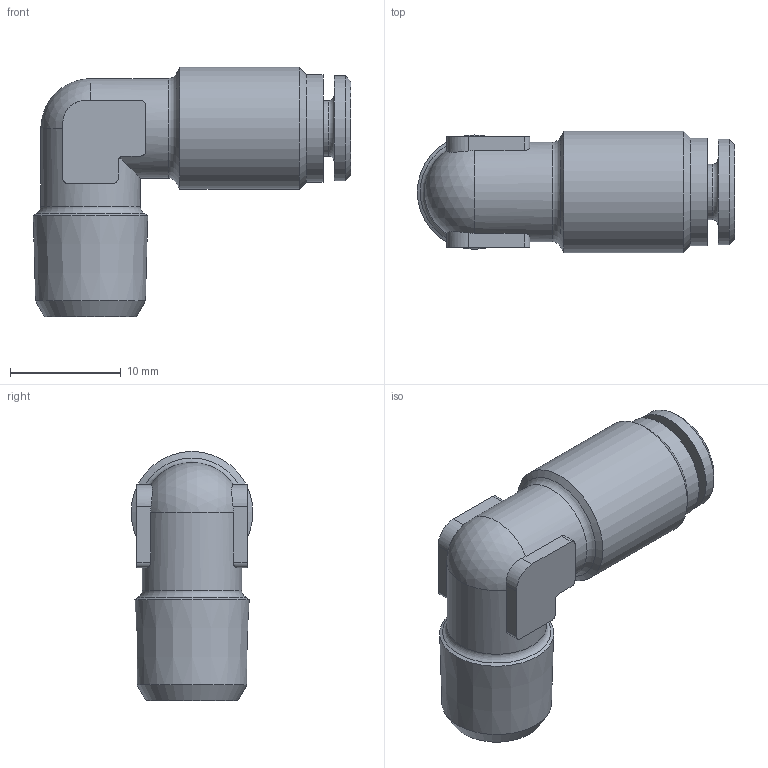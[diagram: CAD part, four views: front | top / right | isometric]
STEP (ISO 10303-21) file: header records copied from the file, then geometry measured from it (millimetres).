
FILE_DESCRIPTION(/* description */ (''),/* implementation_level */ '2;1');
FILE_NAME(/* name */ 'H190410_HDS19_4_M10X1K_04.05.17',/* time_stamp */ '2017-05-04T11:59:15+02:00',/* author */ (''),/* organization */ (''),/* preprocessor_version */ 'ST-DEVELOPER v16.5',/* originating_system */ 'HiCAD 2016 2102.1 Build 498',/* authorisation */ '');
FILE_SCHEMA (('AUTOMOTIVE_DESIGN { 1 0 10303 214 1 1 1 1 }'));
Length unit declared in the file: millimetre
Products named in the file (3): Root; ONLINE_DR4_HDS_26.11.15; RH140410
Assembly tree (2 placements, depth 2):
  Root
    ONLINE_DR4_HDS_26.11.15
    RH140410
Bounding box: 28.67 x 11 x 22.5 mm (x, y, z)
Volume: 2180.2 mm3; surface area: 2613 mm2
Topology: 2 solids, 2 shells, 68 faces, 164 edges, 103 vertices
Faces by surface type: cylinder 25, plane 22, cone 15, torus 5, sphere 1
Full cylindrical faces by diameter (mm): 3 x1, 4.2 x2, 5 x1, 5.5 x1, 7.3 x1, 8 x1, 8.3 x1, 9 x2, 9.5 x1, 9.7 x1, 11 x1
Entity records: 3476 total; most frequent: CARTESIAN_POINT 743, DIRECTION 314, PRESENTATION_STYLE_ASSIGNMENT 252, COLOUR_RGB 252, DRAUGHTING_PRE_DEFINED_CURVE_FONT 250, CURVE_STYLE 250, OVER_RIDING_STYLED_ITEM 250, ORIENTED_EDGE 250
